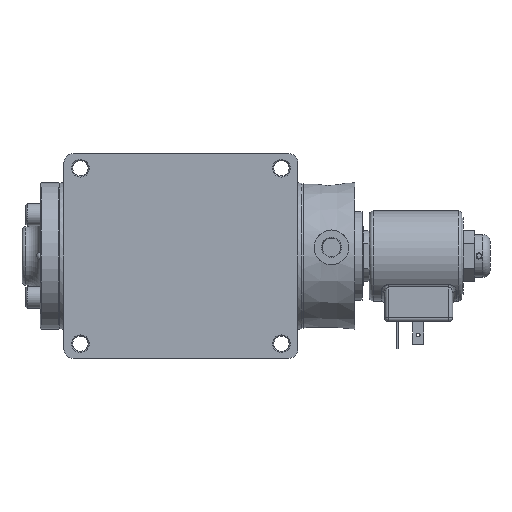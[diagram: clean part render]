
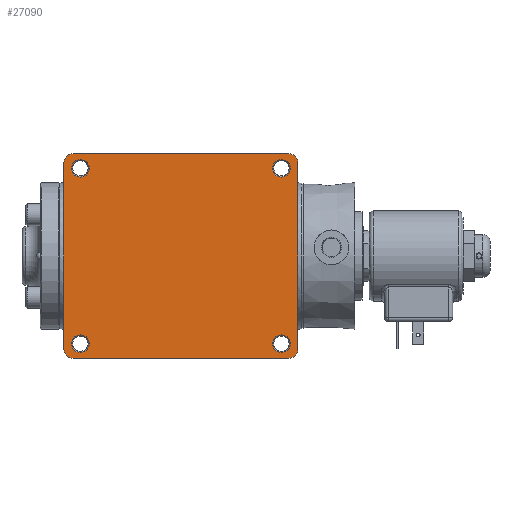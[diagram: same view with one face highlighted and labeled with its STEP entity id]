
A CAD part, front view. The second image highlights one B-rep face of the part: STEP entity #27090.
In plain terms, the highlighted planar face has unit normal (0, -1, 0).
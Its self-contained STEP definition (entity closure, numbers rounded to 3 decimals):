
#863=LINE('',#43510,#2264);
#893=LINE('',#43742,#2294);
#1395=LINE('',#57714,#2796);
#1398=LINE('',#57727,#2799);
#2264=VECTOR('',#32961,8.096);
#2294=VECTOR('',#33061,9.366);
#2796=VECTOR('',#34707,9.366);
#2799=VECTOR('',#34722,8.096);
#4888=PLANE('',#29325);
#5621=FACE_BOUND('',#9056,.T.);
#5622=FACE_BOUND('',#9057,.T.);
#5623=FACE_BOUND('',#9058,.T.);
#5624=FACE_BOUND('',#9059,.T.);
#7144=FACE_OUTER_BOUND('',#9055,.T.);
#9055=EDGE_LOOP('',(#22494,#22495,#22496,#22497,#22498,#22499,#22500,#22501));
#9056=EDGE_LOOP('',(#22502));
#9057=EDGE_LOOP('',(#22503));
#9058=EDGE_LOOP('',(#22504));
#9059=EDGE_LOOP('',(#22505));
#10232=CIRCLE('',#28743,0.397);
#10235=CIRCLE('',#28748,0.397);
#10459=CIRCLE('',#29315,0.397);
#10463=CIRCLE('',#29321,0.397);
#10465=CIRCLE('',#29326,0.381);
#10466=CIRCLE('',#29327,0.381);
#10467=CIRCLE('',#29328,0.381);
#10468=CIRCLE('',#29329,0.381);
#11702=VERTEX_POINT('',#43508);
#11703=VERTEX_POINT('',#43509);
#11756=VERTEX_POINT('',#43735);
#11757=VERTEX_POINT('',#43736);
#11758=VERTEX_POINT('',#43741);
#12623=VERTEX_POINT('',#57709);
#12624=VERTEX_POINT('',#57713);
#12628=VERTEX_POINT('',#57723);
#12630=VERTEX_POINT('',#57732);
#12631=VERTEX_POINT('',#57734);
#12632=VERTEX_POINT('',#57736);
#12633=VERTEX_POINT('',#57738);
#14595=EDGE_CURVE('',#11702,#11703,#863,.T.);
#14660=EDGE_CURVE('',#11756,#11757,#10232,.T.);
#14663=EDGE_CURVE('',#11757,#11758,#893,.T.);
#14669=EDGE_CURVE('',#11758,#11702,#10235,.T.);
#16066=EDGE_CURVE('',#11703,#12623,#10459,.T.);
#16068=EDGE_CURVE('',#12623,#12624,#1395,.T.);
#16073=EDGE_CURVE('',#12624,#12628,#10463,.T.);
#16075=EDGE_CURVE('',#12628,#11756,#1398,.T.);
#16077=EDGE_CURVE('',#12630,#12630,#10465,.T.);
#16078=EDGE_CURVE('',#12631,#12631,#10466,.T.);
#16079=EDGE_CURVE('',#12632,#12632,#10467,.T.);
#16080=EDGE_CURVE('',#12633,#12633,#10468,.T.);
#22494=ORIENTED_EDGE('',*,*,#16066,.T.);
#22495=ORIENTED_EDGE('',*,*,#16068,.T.);
#22496=ORIENTED_EDGE('',*,*,#16073,.T.);
#22497=ORIENTED_EDGE('',*,*,#16075,.T.);
#22498=ORIENTED_EDGE('',*,*,#14660,.T.);
#22499=ORIENTED_EDGE('',*,*,#14663,.T.);
#22500=ORIENTED_EDGE('',*,*,#14669,.T.);
#22501=ORIENTED_EDGE('',*,*,#14595,.T.);
#22502=ORIENTED_EDGE('',*,*,#16077,.T.);
#22503=ORIENTED_EDGE('',*,*,#16078,.T.);
#22504=ORIENTED_EDGE('',*,*,#16079,.T.);
#22505=ORIENTED_EDGE('',*,*,#16080,.T.);
#27090=ADVANCED_FACE('',(#7144,#5621,#5622,#5623,#5624),#4888,.T.);
#28743=AXIS2_PLACEMENT_3D('',#43737,#33055,#33056);
#28748=AXIS2_PLACEMENT_3D('',#43752,#33071,#33072);
#29315=AXIS2_PLACEMENT_3D('',#57710,#34702,#34703);
#29321=AXIS2_PLACEMENT_3D('',#57724,#34717,#34718);
#29325=AXIS2_PLACEMENT_3D('',#57731,#34727,#34728);
#29326=AXIS2_PLACEMENT_3D('',#57733,#34729,#34730);
#29327=AXIS2_PLACEMENT_3D('',#57735,#34731,#34732);
#29328=AXIS2_PLACEMENT_3D('',#57737,#34733,#34734);
#29329=AXIS2_PLACEMENT_3D('',#57739,#34735,#34736);
#32961=DIRECTION('',(0.,0.,1.));
#33055=DIRECTION('center_axis',(0.,-1.,0.));
#33056=DIRECTION('ref_axis',(-0.707,0.,-0.707));
#33061=DIRECTION('',(1.,0.,0.));
#33071=DIRECTION('center_axis',(0.,-1.,0.));
#33072=DIRECTION('ref_axis',(0.707,0.,-0.707));
#34702=DIRECTION('center_axis',(0.,-1.,0.));
#34703=DIRECTION('ref_axis',(0.707,0.,0.707));
#34707=DIRECTION('',(-1.,0.,0.));
#34717=DIRECTION('center_axis',(0.,-1.,0.));
#34718=DIRECTION('ref_axis',(-0.707,0.,0.707));
#34722=DIRECTION('',(0.,0.,-1.));
#34727=DIRECTION('center_axis',(0.,-1.,0.));
#34728=DIRECTION('ref_axis',(0.,0.,-1.));
#34729=DIRECTION('center_axis',(0.,1.,0.));
#34730=DIRECTION('ref_axis',(1.,0.,0.));
#34731=DIRECTION('center_axis',(0.,1.,0.));
#34732=DIRECTION('ref_axis',(1.,0.,0.));
#34733=DIRECTION('center_axis',(0.,1.,0.));
#34734=DIRECTION('ref_axis',(1.,0.,0.));
#34735=DIRECTION('center_axis',(0.,1.,0.));
#34736=DIRECTION('ref_axis',(1.,0.,0.));
#43508=CARTESIAN_POINT('',(5.08,-3.335,-4.048));
#43509=CARTESIAN_POINT('',(5.08,-3.335,4.048));
#43510=CARTESIAN_POINT('',(5.08,-3.335,-2.223));
#43735=CARTESIAN_POINT('',(-5.08,-3.335,-4.048));
#43736=CARTESIAN_POINT('',(-4.683,-3.335,-4.445));
#43737=CARTESIAN_POINT('Origin',(-4.683,-3.335,-4.048));
#43741=CARTESIAN_POINT('',(4.683,-3.335,-4.445));
#43742=CARTESIAN_POINT('',(0.087,-3.335,-4.445));
#43752=CARTESIAN_POINT('Origin',(4.683,-3.335,-4.048));
#57709=CARTESIAN_POINT('',(4.683,-3.335,4.445));
#57710=CARTESIAN_POINT('Origin',(4.683,-3.335,4.048));
#57713=CARTESIAN_POINT('',(-4.683,-3.335,4.445));
#57714=CARTESIAN_POINT('',(5.167,-3.335,4.445));
#57723=CARTESIAN_POINT('',(-5.08,-3.335,4.048));
#57724=CARTESIAN_POINT('Origin',(-4.683,-3.335,4.048));
#57727=CARTESIAN_POINT('',(-5.08,-3.335,2.223));
#57731=CARTESIAN_POINT('Origin',(5.254,-3.335,0.));
#57732=CARTESIAN_POINT('',(4.747,-3.335,3.81));
#57733=CARTESIAN_POINT('Origin',(4.366,-3.335,3.81));
#57734=CARTESIAN_POINT('',(4.747,-3.335,-3.81));
#57735=CARTESIAN_POINT('Origin',(4.366,-3.335,-3.81));
#57736=CARTESIAN_POINT('',(-3.985,-3.335,-3.81));
#57737=CARTESIAN_POINT('Origin',(-4.366,-3.335,-3.81));
#57738=CARTESIAN_POINT('',(-3.985,-3.335,3.81));
#57739=CARTESIAN_POINT('Origin',(-4.366,-3.335,3.81));
